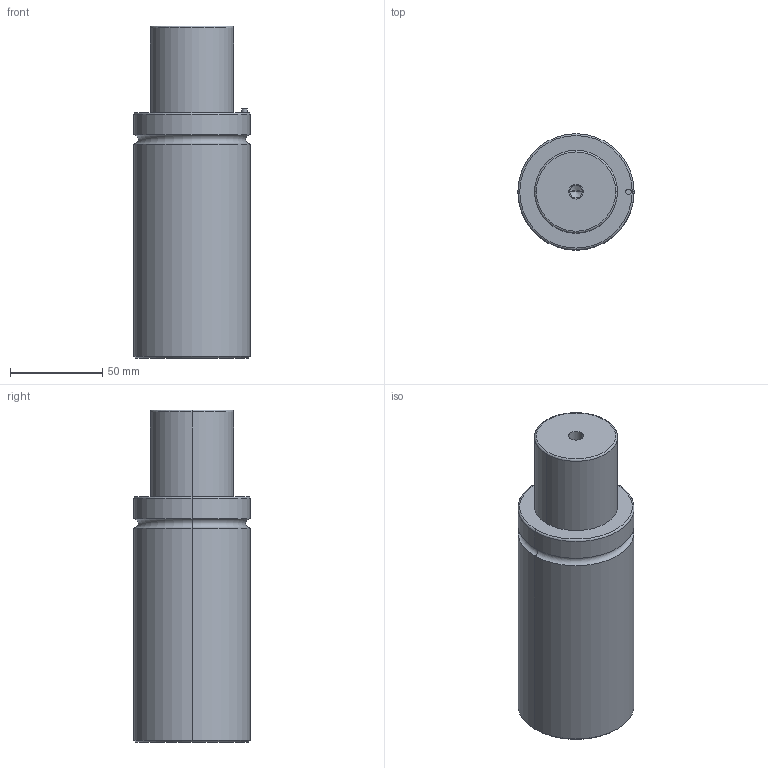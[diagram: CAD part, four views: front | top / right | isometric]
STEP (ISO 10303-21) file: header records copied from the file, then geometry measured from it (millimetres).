
FILE_DESCRIPTION(/* description */ (''),/* implementation_level */ '2;1');
FILE_NAME(/* name */ '3d_gsm63-45_03909_r00.stp',/* time_stamp */ '2011-01-10T14:15:14+09:00',/* author */ ('MISUMI'),/* organization */ (''),/* preprocessor_version */ 'ST-DEVELOPER v11',/* originating_system */ 'UGS - NX 5.0',/* authorisation */ '');
FILE_SCHEMA (('CONFIG_CONTROL_DESIGN'));
Length unit declared in the file: millimetre
Products named in the file (1): 3d_gsm63-45_03909_r00
Bounding box: 63 x 63 x 180 mm (x, y, z)
Volume: 484438.1 mm3; surface area: 40886.8 mm2
Topology: 1 solids, 1 shells, 48 faces, 102 edges, 58 vertices
Faces by surface type: cylinder 24, cone 10, plane 8, torus 6
Entity records: 1332 total; most frequent: DIRECTION 252, CARTESIAN_POINT 201, ORIENTED_EDGE 188, AXIS2_PLACEMENT_3D 109, EDGE_CURVE 94, CIRCLE 60, EDGE_LOOP 58, VERTEX_POINT 58
